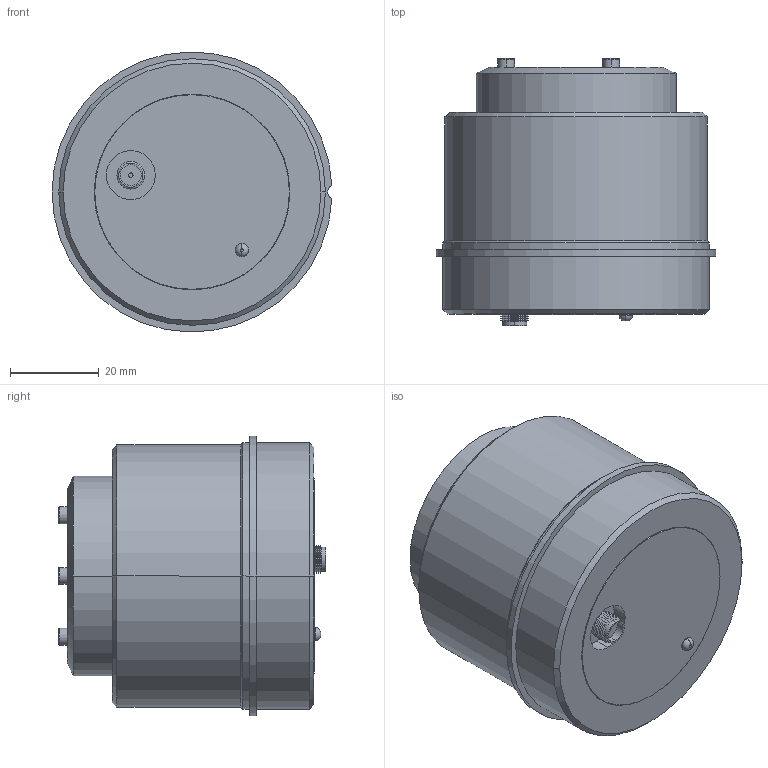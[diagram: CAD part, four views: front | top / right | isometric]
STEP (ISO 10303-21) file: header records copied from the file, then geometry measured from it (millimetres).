
FILE_DESCRIPTION (( 'STEP AP214' ), '1' );
FILE_NAME ('RLA_Deflector.STEP', '2025-01-08T14:01:32', ( '' ), ( '' ), 'SwSTEP 2.0', 'SolidWorks 2011', '' );
FILE_SCHEMA (( 'AUTOMOTIVE_DESIGN' ));
Length unit declared in the file: millimetre
Products named in the file (1): RLA_Deflector
Bounding box: 62.97 x 60.1 x 62.98 mm (x, y, z)
Volume: 140885.8 mm3; surface area: 16495.2 mm2
Topology: 1 solids, 1 shells, 128 faces, 280 edges, 162 vertices
Faces by surface type: cone 60, cylinder 42, plane 18, torus 8
Entity records: 4115 total; most frequent: DIRECTION 676, CARTESIAN_POINT 599, ORIENTED_EDGE 544, AXIS2_PLACEMENT_3D 287, EDGE_CURVE 272, VERTEX_POINT 162, CIRCLE 158, EDGE_LOOP 144
